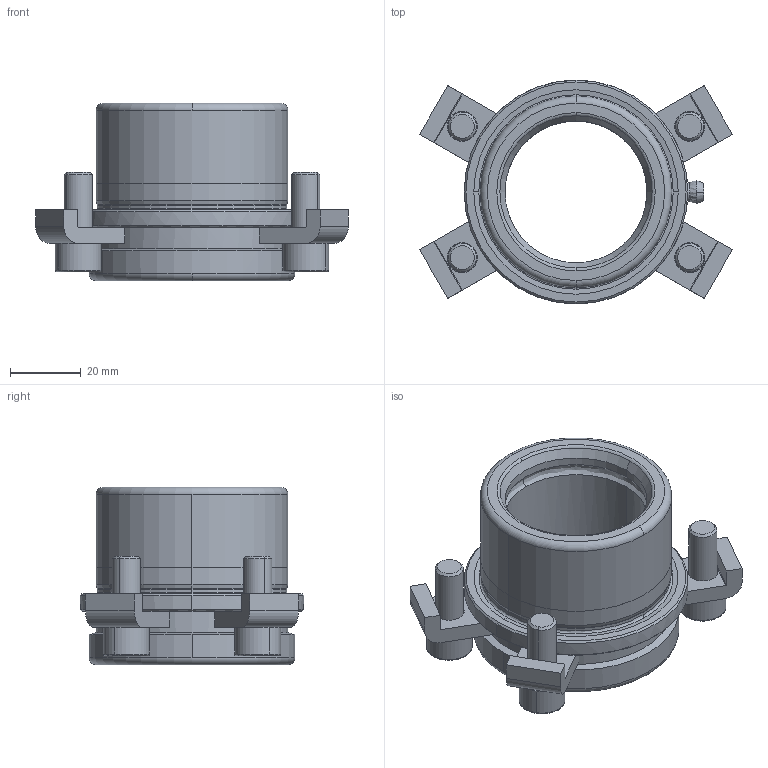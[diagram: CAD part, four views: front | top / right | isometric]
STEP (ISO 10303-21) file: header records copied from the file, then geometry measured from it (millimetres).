
FILE_DESCRIPTION((''),'2;1');
FILE_NAME('B10_040_020.stp','2008-11-06T08:54:34',(''),(''),'Mechanical Desktop 2009','Mechanical Desktop 2009',', , ');
FILE_SCHEMA(('CONFIG_CONTROL_DESIGN'));
Length unit declared in the file: millimetre
Products named in the file (2): Product; blmdl1
Assembly tree (1 placements, depth 2):
  Product
    blmdl1
Bounding box: 88.14 x 63 x 50 mm (x, y, z)
Volume: 70266.3 mm3; surface area: 28431.1 mm2
Topology: 10 solids, 10 shells, 210 faces, 534 edges, 353 vertices
Faces by surface type: plane 91, cylinder 61, cone 22, bspline 18, torus 18
Entity records: 7706 total; most frequent: CARTESIAN_POINT 2390, DIRECTION 1150, ORIENTED_EDGE 1060, EDGE_CURVE 530, AXIS2_PLACEMENT_3D 450, VERTEX_POINT 351, CIRCLE 256, VECTOR 250
